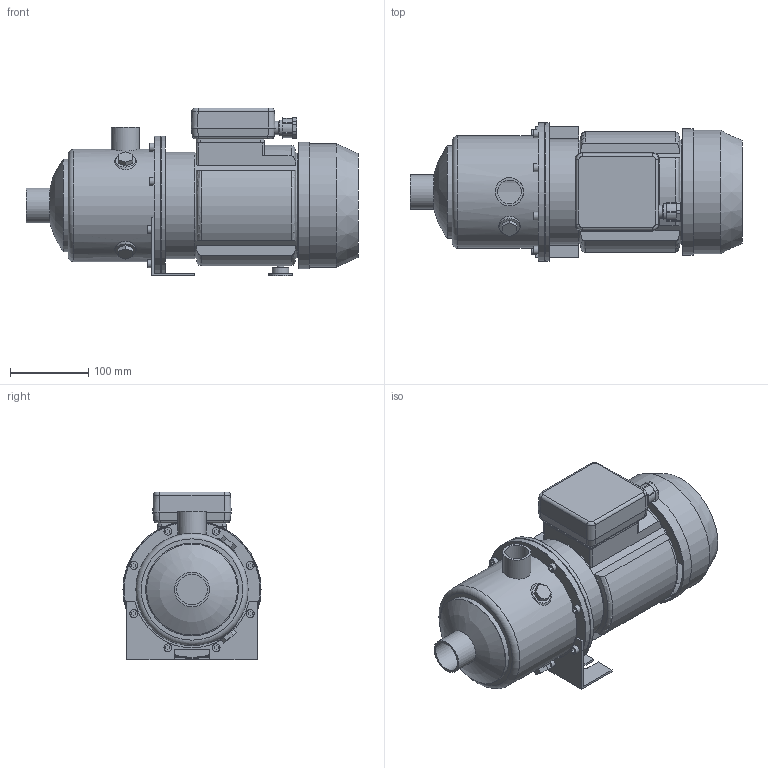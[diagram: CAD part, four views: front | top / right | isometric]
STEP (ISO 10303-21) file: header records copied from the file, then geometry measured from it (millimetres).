
FILE_DESCRIPTION(/* description */ ('Unknown'),/* implementation_level */ '2;1');
FILE_NAME(/* name */ 'MH 5 [4] T6 IE3',/* time_stamp */ '2026-07-10T15:14:12+02:00',/* author */ ('Unknown'),/* organization */ ('Unknown'),/* preprocessor_version */ 'ST-DEVELOPER v20',/* originating_system */ 'Solid Edge',/* authorisation */ 'Unknown');
FILE_SCHEMA (('AUTOMOTIVE_DESIGN {1 0 10303 214 3 1 1}'));
Length unit declared in the file: millimetre
Products named in the file (10): MH 5 [4] T6 IE3; Flangia motore Tonda M80; Corpo MH 3-5 [4]; Motore MEC 80 - T; carcassa MEC 80; Copriventola MEC 80; Ghiera PG13,5 cod. SAV.GHI.20; Basetta MEC 80-90-100 T; Piedino MEC 80 int.90; Staffa 3-5-9 int.90
Assembly tree (9 placements, depth 3):
  MH 5 [4] T6 IE3
    Flangia motore Tonda M80
    Corpo MH 3-5 [4]
    Motore MEC 80 - T
      carcassa MEC 80
      Copriventola MEC 80
      Ghiera PG13,5 cod. SAV.GHI.20
      Basetta MEC 80-90-100 T
    Piedino MEC 80 int.90
    Staffa 3-5-9 int.90
Bounding box: 424.1 x 176.5 x 214.5 mm (x, y, z)
Volume: 2316183.1 mm3; surface area: 561365.1 mm2
Topology: 8 solids, 8 shells, 316 faces, 750 edges, 497 vertices
Faces by surface type: plane 179, cylinder 100, cone 18, torus 9, bspline 8, sphere 2
Full cylindrical faces by diameter (mm): 7 x4, 10 x9, 13 x1, 17 x1, 19.73 x1, 20.4 x1, 21 x1, 30 x1, 30.291 x1, 36 x1, 38.952 x1, 44.5 x1, 116.1 x1, 118.5 x1, 125 x1, 130 x3, 134 x1, 136 x1, 141.1 x1, 143.5 x1, 153 x1, 157 x1, 158 x1, 162 x1, 173.5 x1, 174.1 x1, 176.5 x2
Entity records: 10385 total; most frequent: CARTESIAN_POINT 1889, DIRECTION 1485, ORIENTED_EDGE 1324, EDGE_CURVE 662, AXIS2_PLACEMENT_3D 551, VERTEX_POINT 468, EDGE_LOOP 432, FACE_BOUND 432
